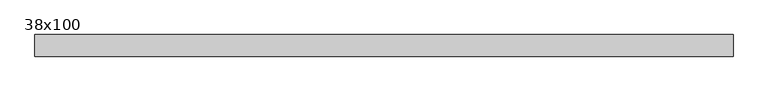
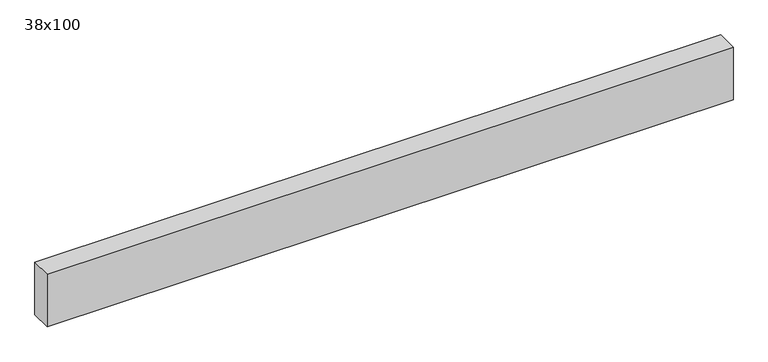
"""IFC4 building model written with IfcOpenShell, lengths in millimetres: beam geometry, Poutre - Bois de construction de dimensions courantes : 38x100."""

from ifc_helpers import new_model, si_unit, frame, origin, place, context, project, spatial, polyline, outline, extrude, source, transform, mapped, element, save


def beam_38x100_ff7a0a56(model_context):
    return source(origin(), model_context, "Body", "SweptSolid", [
        extrude(outline(polyline([(616.0, 19.05), (616.0, -19.05), (-616.0, -19.05), (-616.0, 19.05), (616.0, 19.05)])), frame((0.0, 0.0, -50.0), z_axis=(0.0, 0.0, 1.0), x_axis=(1.0, 0.0, 0.0)), (0.0, 0.0, 1.0), 100.0),
    ])


if __name__ == "__main__":
    model = new_model("IFC4")
    model_context = context("Model", 3, world=origin())
    ifc_project = project(units=[si_unit("LENGTHUNIT", "METRE", prefix="MILLI")], contexts=[model_context])
    site = spatial("IfcSite", under=ifc_project)
    building = spatial("IfcBuilding", under=site)
    placement = place(None, origin())
    beam_38x100_shape = beam_38x100_ff7a0a56(model_context)
    element("IfcBeam", 1, ObjectType="Poutre - Bois de construction de dimensions courantes : 38x100", at=placement, inside=building, context=model_context, shape_type="MappedRepresentation", body=[
        mapped(beam_38x100_shape, transform((0.0, 0.0, 0.0), x_axis=(1.0, 0.0, 0.0), y_axis=(0.0, 1.0, 0.0), z_axis=(0.0, 0.0, 1.0))),
    ])
    save(model, "model.ifc")
